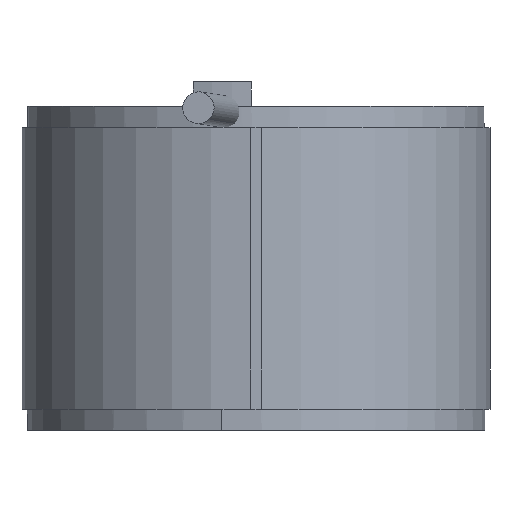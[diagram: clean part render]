
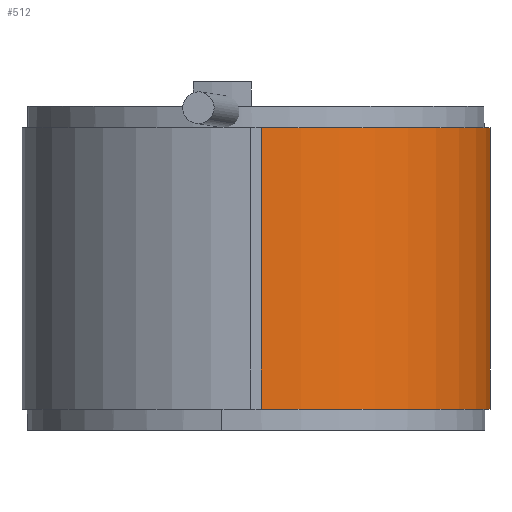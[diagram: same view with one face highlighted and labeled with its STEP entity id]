
A CAD part, front view. The second image highlights one B-rep face of the part: STEP entity #512.
In plain terms, the highlighted cylindrical face has radius 66.5 mm (diameter 133 mm), a partial arc.
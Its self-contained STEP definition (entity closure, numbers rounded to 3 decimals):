
#2 = EDGE_CURVE ( 'NONE', #1637, #4930, #5984, .T. ) ;
#268 = LINE ( 'NONE', #4706, #2108 ) ;
#512 = ADVANCED_FACE ( 'NONE', ( #4060 ), #6032, .T. ) ;
#625 = ORIENTED_EDGE ( 'NONE', *, *, #2, .F. ) ;
#776 = VERTEX_POINT ( 'NONE', #3127 ) ;
#1069 = CARTESIAN_POINT ( 'NONE',  ( 8.729, 57.893, 42.252 ) ) ;
#1128 = CARTESIAN_POINT ( 'NONE',  ( 8.729, 57.893, 122.252 ) ) ;
#1421 = EDGE_LOOP ( 'NONE', ( #625, #2361, #4285, #5770 ) ) ;
#1615 = DIRECTION ( 'NONE',  ( 0., 0., 1. ) ) ;
#1627 = DIRECTION ( 'NONE',  ( 0., 0., -1. ) ) ;
#1637 = VERTEX_POINT ( 'NONE', #5742 ) ;
#1758 = DIRECTION ( 'NONE',  ( 0., 0., -1. ) ) ;
#1958 = LINE ( 'NONE', #5558, #5465 ) ;
#2108 = VECTOR ( 'NONE', #4097, 1000. ) ;
#2214 = DIRECTION ( 'NONE',  ( 1., 0., 0. ) ) ;
#2361 = ORIENTED_EDGE ( 'NONE', *, *, #5214, .F. ) ;
#2586 = DIRECTION ( 'NONE',  ( 0., 0., -1. ) ) ;
#2624 = EDGE_CURVE ( 'NONE', #776, #2635, #3683, .T. ) ;
#2635 = VERTEX_POINT ( 'NONE', #3243 ) ;
#2995 = AXIS2_PLACEMENT_3D ( 'NONE', #1128, #1615, #3572 ) ;
#3105 = AXIS2_PLACEMENT_3D ( 'NONE', #1069, #2586, #4133 ) ;
#3127 = CARTESIAN_POINT ( 'NONE',  ( 67.067, 89.813, 122.252 ) ) ;
#3243 = CARTESIAN_POINT ( 'NONE',  ( 10.254, -8.59, 122.252 ) ) ;
#3262 = EDGE_CURVE ( 'NONE', #2635, #4930, #268, .T. ) ;
#3572 = DIRECTION ( 'NONE',  ( -1., 0., 0. ) ) ;
#3655 = CARTESIAN_POINT ( 'NONE',  ( 8.729, 57.893, 122.252 ) ) ;
#3683 = CIRCLE ( 'NONE', #4506, 66.5 ) ;
#4060 = FACE_OUTER_BOUND ( 'NONE', #1421, .T. ) ;
#4097 = DIRECTION ( 'NONE',  ( 0., 0., -1. ) ) ;
#4133 = DIRECTION ( 'NONE',  ( 1., 0., 0. ) ) ;
#4285 = ORIENTED_EDGE ( 'NONE', *, *, #2624, .T. ) ;
#4506 = AXIS2_PLACEMENT_3D ( 'NONE', #3655, #1758, #2214 ) ;
#4706 = CARTESIAN_POINT ( 'NONE',  ( 10.254, -8.59, 286.648 ) ) ;
#4930 = VERTEX_POINT ( 'NONE', #6024 ) ;
#5214 = EDGE_CURVE ( 'NONE', #776, #1637, #1958, .T. ) ;
#5465 = VECTOR ( 'NONE', #1627, 1000. ) ;
#5558 = CARTESIAN_POINT ( 'NONE',  ( 67.067, 89.813, 286.637 ) ) ;
#5742 = CARTESIAN_POINT ( 'NONE',  ( 67.067, 89.813, 42.252 ) ) ;
#5770 = ORIENTED_EDGE ( 'NONE', *, *, #3262, .T. ) ;
#5984 = CIRCLE ( 'NONE', #3105, 66.5 ) ;
#6024 = CARTESIAN_POINT ( 'NONE',  ( 10.254, -8.59, 42.252 ) ) ;
#6032 = CYLINDRICAL_SURFACE ( 'NONE', #2995, 66.5 ) ;
